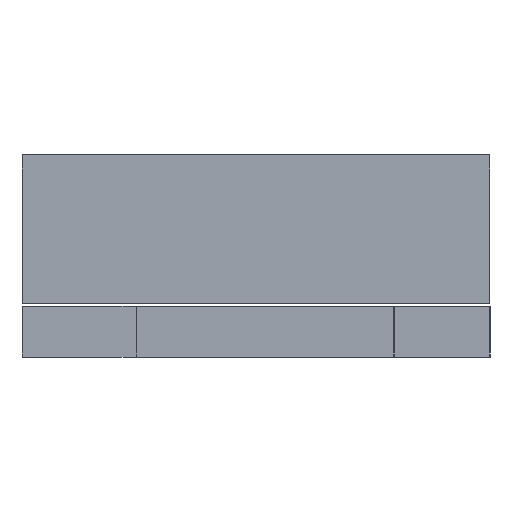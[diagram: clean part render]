
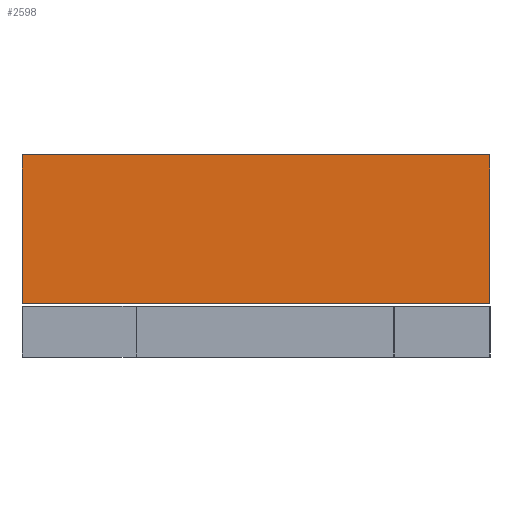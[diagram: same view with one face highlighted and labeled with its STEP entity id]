
A CAD part, left-side view. The second image highlights one B-rep face of the part: STEP entity #2598.
In plain terms, the highlighted planar face has unit normal (-1, 0, 0) as drawn and (0, 0, -1) by its records, which use the part's own axes.
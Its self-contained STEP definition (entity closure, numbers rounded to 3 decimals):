
#131=FACE_OUTER_BOUND('',#278,.T.);
#278=EDGE_LOOP('',(#1891,#1892,#1893,#1894));
#401=LINE('',#3831,#706);
#436=LINE('',#3926,#741);
#439=LINE('',#3932,#744);
#442=LINE('',#3937,#747);
#706=VECTOR('',#3069,10.);
#741=VECTOR('',#3152,10.);
#744=VECTOR('',#3157,10.);
#747=VECTOR('',#3162,10.);
#1084=VERTEX_POINT('',#3829);
#1085=VERTEX_POINT('',#3830);
#1121=VERTEX_POINT('',#3925);
#1123=VERTEX_POINT('',#3931);
#1334=EDGE_CURVE('',#1084,#1085,#401,.T.);
#1382=EDGE_CURVE('',#1121,#1084,#436,.T.);
#1385=EDGE_CURVE('',#1123,#1121,#439,.T.);
#1388=EDGE_CURVE('',#1085,#1123,#442,.T.);
#1891=ORIENTED_EDGE('',*,*,#1388,.F.);
#1892=ORIENTED_EDGE('',*,*,#1334,.F.);
#1893=ORIENTED_EDGE('',*,*,#1382,.F.);
#1894=ORIENTED_EDGE('',*,*,#1385,.F.);
#2475=PLANE('',#2881);
#2598=ADVANCED_FACE('',(#131),#2475,.F.);
#2881=AXIS2_PLACEMENT_3D('',#4008,#3240,#3241);
#3069=DIRECTION('',(1.,0.,0.));
#3152=DIRECTION('',(0.,-1.,0.));
#3157=DIRECTION('',(-1.,0.,0.));
#3162=DIRECTION('',(0.,1.,0.));
#3240=DIRECTION('center_axis',(0.,0.,1.));
#3241=DIRECTION('ref_axis',(1.,0.,0.));
#3829=CARTESIAN_POINT('',(-390.129,-124.,0.));
#3830=CARTESIAN_POINT('',(390.129,-124.,0.));
#3831=CARTESIAN_POINT('',(-390.129,-124.,0.));
#3925=CARTESIAN_POINT('',(-390.129,124.,0.));
#3926=CARTESIAN_POINT('',(-390.129,124.,0.));
#3931=CARTESIAN_POINT('',(390.129,124.,0.));
#3932=CARTESIAN_POINT('',(390.129,124.,0.));
#3937=CARTESIAN_POINT('',(390.129,-124.,0.));
#4008=CARTESIAN_POINT('Origin',(0.,0.,
0.));
